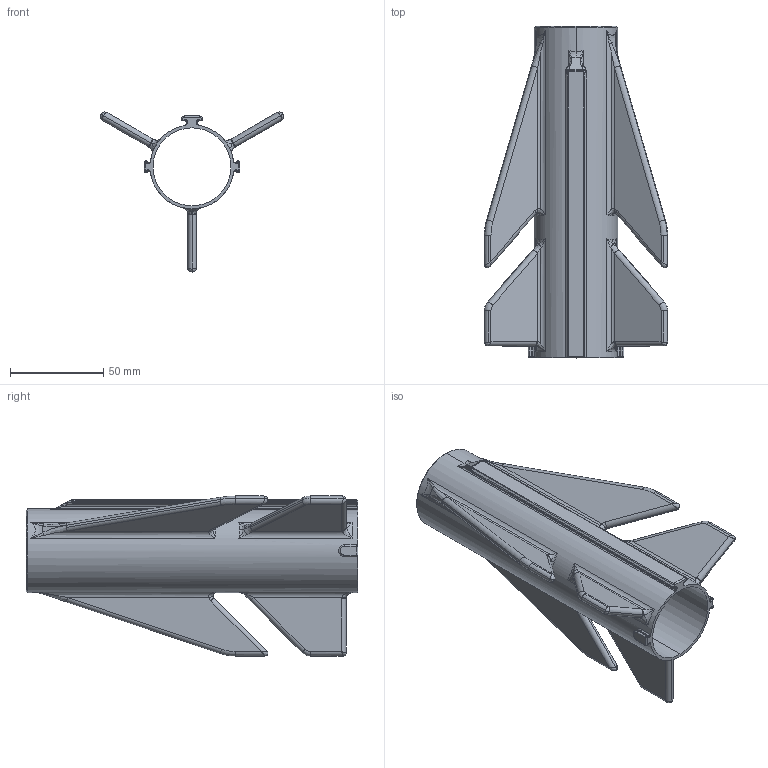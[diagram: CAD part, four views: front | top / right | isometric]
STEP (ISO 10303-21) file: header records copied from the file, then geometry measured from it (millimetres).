
FILE_DESCRIPTION (( 'STEP AP203' ), '1' );
FILE_NAME ('FIN_CAN_SWITCHBACK_38MM.STEP', '2024-03-16T23:11:50', ( '' ), ( '' ), 'SwSTEP 2.0', 'SolidWorks 2020', '' );
FILE_SCHEMA (( 'CONFIG_CONTROL_DESIGN' ));
Length unit declared in the file: inch
Products named in the file (1): FIN_CAN_SWITCHBACK_38MM
Bounding box: 98.25 x 177.8 x 85.72 mm (x, y, z)
Volume: 91261.7 mm3; surface area: 70656.8 mm2
Topology: 1 solids, 1 shells, 313 faces, 733 edges, 374 vertices
Faces by surface type: cylinder 121, bspline 91, torus 44, plane 41, sphere 14, cone 2
Entity records: 11861 total; most frequent: CARTESIAN_POINT 5721, ORIENTED_EDGE 1362, DIRECTION 1186, EDGE_CURVE 681, AXIS2_PLACEMENT_3D 491, VERTEX_POINT 374, EDGE_LOOP 319, ADVANCED_FACE 313
